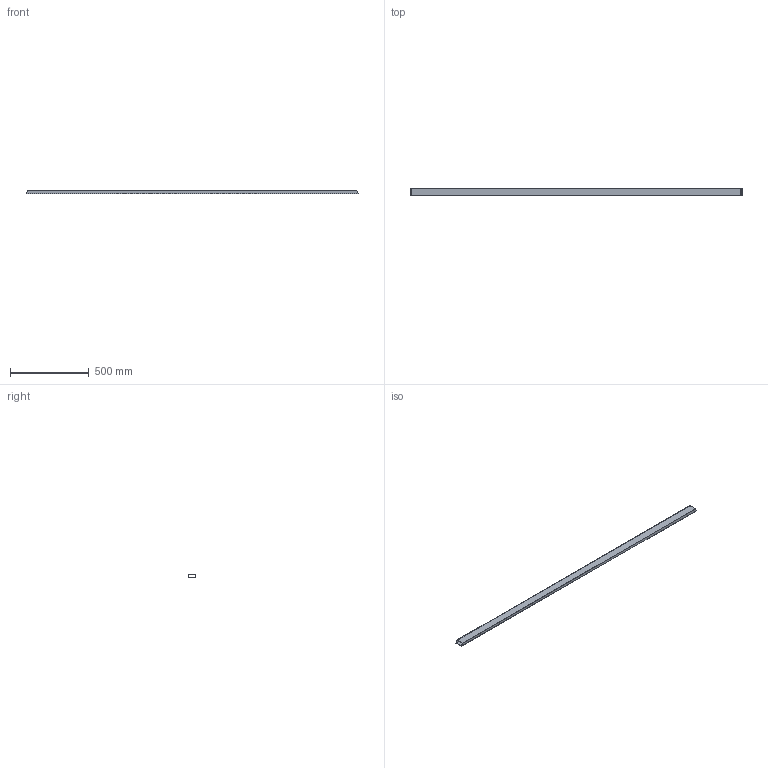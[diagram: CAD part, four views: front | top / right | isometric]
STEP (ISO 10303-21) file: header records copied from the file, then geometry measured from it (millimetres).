
FILE_DESCRIPTION(/* description */ (''),/* implementation_level */ '2;1');
FILE_NAME(/* name */ 'Pos117-Koker 50x20x2 EN 10219-2-S235JRH-1st',/* time_stamp */ '2024-08-06T13:49:48+02:00',/* author */ (''),/* organization */ (''),/* preprocessor_version */ 'ST-DEVELOPER v16.5',/* originating_system */ 'HiCAD 2024 2901.2 Build 361',/* authorisation */ '');
FILE_SCHEMA (('AUTOMOTIVE_DESIGN { 1 0 10303 214 1 1 1 1 }'));
Length unit declared in the file: millimetre
Products named in the file (1): Pos117-Koker 50x20x2 EN 10219-2-S235JRH-1st
Bounding box: 2110.02 x 50 x 20 mm (x, y, z)
Volume: 554850.5 mm3; surface area: 555423 mm2
Topology: 1 solids, 1 shells, 10 faces, 24 edges, 16 vertices
Faces by surface type: plane 10
Entity records: 550 total; most frequent: CARTESIAN_POINT 50, PRESENTATION_STYLE_ASSIGNMENT 49, COLOUR_RGB 49, DRAUGHTING_PRE_DEFINED_CURVE_FONT 48, CURVE_STYLE 48, OVER_RIDING_STYLED_ITEM 48, ORIENTED_EDGE 48, DIRECTION 44
